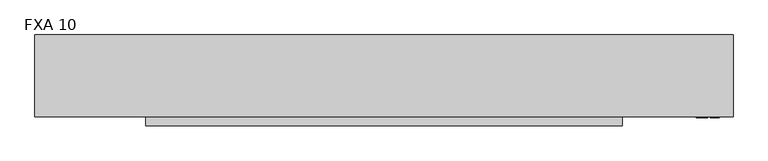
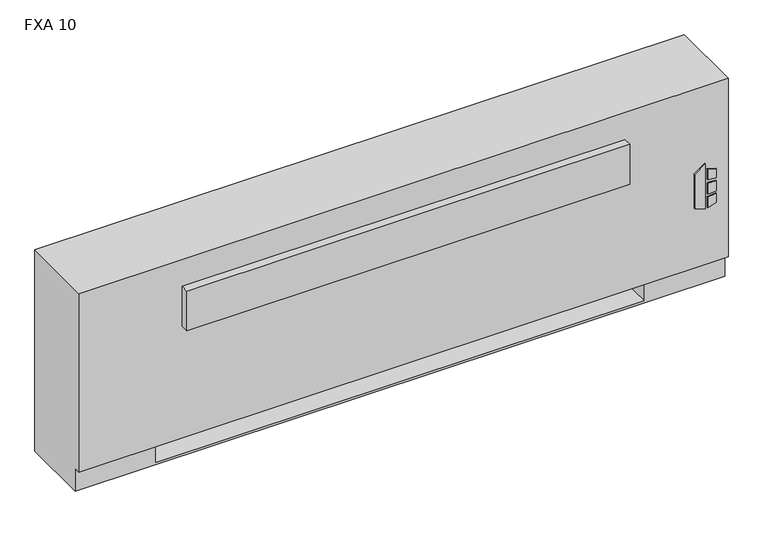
"""IFC4 building model written with IfcOpenShell, lengths in millimetres: proxy geometry, Vertical_Fan_Coil_Unit_-_FXA_-_IEC_-_4-Pipe_FS-FR_RH_2022 : FXA 10."""

from ifc_helpers import new_model, si_unit, point, frame, frame_2d, origin, place, context, project, spatial, polyline, circle_curve, trimmed, segment, composite_curve, outline, extrude, source, transform, mapped, element, save
from ifc_brep_helpers import plane_surface, revolved_surface, advanced_brep


def fxa_10_f746c035(model_context):
    return source(origin(), model_context, "Body", "SolidModel", [
        extrude(outline(polyline([(263.9480703, 1027.1868862), (254.0, 1059.3602728), (396.1709244, 1059.3602728), (373.1489183, 1027.1868862), (263.9480703, 1027.1868862)])), frame((0.0, 12.7, 0.0), z_axis=(0.0, 1.0, 0.0), x_axis=(0.0, 0.0, 1.0)), (0.0, 0.0, 1.0), 3.175),
        extrude(outline(polyline([(342.9473557, 1066.1186058), (339.7449632, 1092.2), (368.9738042, 1092.2), (377.0382193, 1066.1186058), (342.9473557, 1066.1186058)])), frame((0.0, 12.7, 0.0), z_axis=(0.0, 1.0, 0.0), x_axis=(0.0, 0.0, 1.0)), (0.0, 0.0, 1.0), 3.175),
        extrude(outline(polyline([(291.0838288, 1092.2), (287.4183279, 1066.1186058), (254.0, 1066.1186058), (262.6342372, 1092.2), (291.0838288, 1092.2)])), frame((0.0, 12.7, 0.0), z_axis=(0.0, 1.0, 0.0), x_axis=(0.0, 0.0, 1.0)), (0.0, 0.0, 1.0), 3.175),
        extrude(outline(polyline([(330.3989903, 1092.2), (332.6808166, 1066.1186058), (296.7432681, 1066.1186058), (299.4845331, 1092.2), (330.3989903, 1092.2)])), frame((0.0, 12.7, 0.0), z_axis=(0.0, 1.0, 0.0), x_axis=(0.0, 0.0, 1.0)), (0.0, 0.0, 1.0), 3.175),
        extrude(outline(polyline([(-704.85, 81.534), (-704.85, 223.266), (-584.2, 223.266), (-584.2, 81.534), (-704.85, 81.534)])), frame((0.0, 0.0, 327.025), z_axis=(0.0, 0.0, 1.0), x_axis=(1.0, 0.0, 0.0)), (0.0, 0.0, 1.0), 260.35),
        extrude(outline(composite_curve([segment(trimmed(circle_curve(frame_2d((952.5, 130.175)), 9.525), [point((942.975, 130.175))], [point((962.025, 130.175))], False, "CARTESIAN"), True, "CONTINUOUS"), segment(trimmed(circle_curve(frame_2d((952.5, 130.175)), 9.525), [point((962.025, 130.175))], [point((942.975, 130.175))], False, "CARTESIAN"), True, "CONTINUOUS")], self_intersect=False)), frame((0.0, 0.0, 101.6), z_axis=(0.0, 0.0, 1.0), x_axis=(1.0, 0.0, 0.0)), (0.0, 0.0, 1.0), 25.4),
        extrude(outline(polyline([(1054.1, 196.85), (1054.1, 63.5), (889.0, 63.5), (889.0, 196.85), (1054.1, 196.85)])), frame((0.0, 0.0, 127.0), z_axis=(0.0, 0.0, 1.0), x_axis=(1.0, 0.0, 0.0)), (0.0, 0.0, 1.0), 50.8),
        extrude(outline(polyline([(819.15, -9.525), (-514.35, -9.525), (-514.35, 15.875), (819.15, 15.875), (819.15, -9.525)])), frame((0.0, 0.0, 428.625), z_axis=(0.0, 0.0, 1.0), x_axis=(1.0, 0.0, 0.0)), (0.0, 0.0, 1.0), 127.0),
        extrude(outline(composite_curve([segment(trimmed(circle_curve(frame_2d((109.0168, 460.0194)), 7.9375), [point((109.0168, 467.9569))], [point((109.0168, 452.0819))], False, "CARTESIAN"), True, "CONTINUOUS"), segment(trimmed(circle_curve(frame_2d((109.0168, 460.0194)), 7.9375), [point((109.0168, 452.0819))], [point((109.0168, 467.9569))], False, "CARTESIAN"), True, "CONTINUOUS")], self_intersect=False)), frame((889.0, 0.0, 0.0), z_axis=(1.0, 0.0, 0.0), x_axis=(0.0, 1.0, 0.0)), (0.0, 0.0, 1.0), 50.8),
        extrude(outline(composite_curve([segment(trimmed(circle_curve(frame_2d((172.085, 460.0194)), 7.9375), [point((172.085, 467.9569))], [point((172.085, 452.0819))], False, "CARTESIAN"), True, "CONTINUOUS"), segment(trimmed(circle_curve(frame_2d((172.085, 460.0194)), 7.9375), [point((172.085, 452.0819))], [point((172.085, 467.9569))], False, "CARTESIAN"), True, "CONTINUOUS")], self_intersect=False)), frame((889.0, 0.0, 0.0), z_axis=(1.0, 0.0, 0.0), x_axis=(0.0, 1.0, 0.0)), (0.0, 0.0, 1.0), 50.8),
        extrude(outline(composite_curve([segment(trimmed(circle_curve(frame_2d((130.175, 554.99)), 7.9502), [point((130.175, 562.9402))], [point((130.175, 547.0398))], False, "CARTESIAN"), True, "CONTINUOUS"), segment(trimmed(circle_curve(frame_2d((130.175, 554.99)), 7.9502), [point((130.175, 547.0398))], [point((130.175, 562.9402))], False, "CARTESIAN"), True, "CONTINUOUS")], self_intersect=False)), frame((889.0, 0.0, 0.0), z_axis=(1.0, 0.0, 0.0), x_axis=(0.0, 1.0, 0.0)), (0.0, 0.0, 1.0), 50.8),
        extrude(outline(composite_curve([segment(trimmed(circle_curve(frame_2d((53.975, 416.56)), 7.9502), [point((53.975, 424.5102))], [point((53.975, 408.6098))], False, "CARTESIAN"), True, "CONTINUOUS"), segment(trimmed(circle_curve(frame_2d((53.975, 416.56)), 7.9502), [point((53.975, 408.6098))], [point((53.975, 424.5102))], False, "CARTESIAN"), True, "CONTINUOUS")], self_intersect=False)), frame((889.0, 0.0, 0.0), z_axis=(1.0, 0.0, 0.0), x_axis=(0.0, 1.0, 0.0)), (0.0, 0.0, 1.0), 50.8),
        advanced_brep(
        [(1130.3, 244.475, 641.35), (-825.5, 244.475, 641.35), (-825.5, 15.875, 641.35), (1130.3, 15.875, 641.35), (-825.5, 244.475, 0.0), (1130.3, 244.475, 0.0), (1130.3, 34.925, 0.0), (-825.5, 34.925, 0.0), (889.0, 244.475, 73.025), (1117.6, 244.475, 73.025), (1117.6, 244.475, 628.65), (889.0, 244.475, 628.65), (889.0, 244.475, 414.8650565), (917.575, 244.475, 414.8650565), (917.575, 244.475, 385.2349435), (889.0, 244.475, 385.2349435), (889.0, 244.475, 287.3375), (917.575, 244.475, 287.3375), (917.575, 244.475, 258.7625), (889.0, 244.475, 258.7625), (889.0, 244.475, 141.2875), (917.575, 244.475, 141.2875), (917.575, 244.475, 112.7125), (889.0, 244.475, 112.7125), (-584.2, 244.475, 628.65), (-812.8, 244.475, 628.65), (-812.8, 244.475, 73.025), (-584.2, 244.475, 73.025), (-584.2, 244.475, 112.7125), (-612.775, 244.475, 112.7125), (-612.775, 244.475, 141.2875), (-584.2, 244.475, 141.2875), (-584.2, 244.475, 258.7625), (-612.775, 244.475, 258.7625), (-612.775, 244.475, 287.3375), (-584.2, 244.475, 287.3375), (-584.2, 244.475, 385.2349435), (-612.775, 244.475, 385.2349435), (-612.775, 244.475, 414.8650565), (-584.2, 244.475, 414.8650565), (907.2626, 244.475, 127.0), (896.1374, 244.475, 127.0), (907.2626, 244.475, 400.05), (896.1374, 244.475, 400.05), (907.2626, 244.475, 273.05), (896.1374, 244.475, 273.05), (-591.3374, 244.475, 127.0), (-602.4626, 244.475, 127.0), (-591.3374, 244.475, 273.05), (-602.4626, 244.475, 273.05), (-591.3374, 244.475, 400.05), (-602.4626, 244.475, 400.05), (-825.5, 34.925, 73.025), (-825.5, 15.875, 73.025), (1130.3, 15.875, 73.025), (1130.3, 34.925, 73.025), (-584.2, 34.925, 73.025), (-584.2, 219.075, 73.025), (889.0, 219.075, 73.025), (889.0, 34.925, 73.025), (889.0, 34.925, 6.35), (-584.2, 34.925, 6.35), (889.0, 41.275, 628.65), (1117.6, 41.275, 628.65), (1117.6, 41.275, 73.025), (889.0, 41.275, 73.025), (-584.2, 41.275, 628.65), (-584.2, 41.275, 73.025), (-812.8, 41.275, 73.025), (-812.8, 41.275, 628.65), (889.0, 219.075, 73.025), (889.0, 238.125, 112.7125), (889.0, 238.125, 141.2875), (889.0, 238.125, 258.7625), (889.0, 238.125, 287.3375), (889.0, 238.125, 385.2349435), (889.0, 238.125, 414.8650565), (-584.2, 219.075, 73.025), (-584.2, 238.125, 414.8650565), (-584.2, 238.125, 385.2349435), (-584.2, 238.125, 287.3375), (-584.2, 238.125, 258.7625), (-584.2, 238.125, 141.2875), (-584.2, 238.125, 112.7125), (-584.2, 219.075, 6.35), (889.0, 219.075, 6.35), (917.575, 238.125, 112.7125), (917.575, 238.125, 141.2875), (896.1374, 238.125, 127.0), (907.2626, 238.125, 127.0), (917.575, 238.125, 258.7625), (917.575, 238.125, 287.3375), (896.1374, 238.125, 273.05), (907.2626, 238.125, 273.05), (917.575, 238.125, 385.2349435), (917.575, 238.125, 414.8650565), (896.1374, 238.125, 400.05), (907.2626, 238.125, 400.05), (-612.775, 238.125, 141.2875), (-612.775, 238.125, 112.7125), (-602.4626, 238.125, 127.0), (-591.3374, 238.125, 127.0), (-612.775, 238.125, 287.3375), (-612.775, 238.125, 258.7625), (-602.4626, 238.125, 273.05), (-591.3374, 238.125, 273.05), (-612.775, 238.125, 414.8650565), (-612.775, 238.125, 385.2349435), (-602.4626, 238.125, 400.05), (-591.3374, 238.125, 400.05)],
        [
            (0, 1),
            (1, 2),
            (2, 3),
            (3, 0),
            (4, 5),
            (5, 6),
            (6, 7),
            (7, 4),
            (0, 5),
            (4, 1),
            (8, 9),
            (9, 10),
            (10, 11),
            (11, 12),
            (12, 13),
            (13, 14),
            (14, 15),
            (15, 16),
            (16, 17),
            (17, 18),
            (18, 19),
            (19, 20),
            (20, 21),
            (21, 22),
            (22, 23),
            (23, 8),
            (24, 25),
            (25, 26),
            (26, 27),
            (27, 28),
            (28, 29),
            (29, 30),
            (30, 31),
            (31, 32),
            (32, 33),
            (33, 34),
            (34, 35),
            (35, 36),
            (36, 37),
            (37, 38),
            (38, 39),
            (39, 24),
            (40, 41, circle_curve(frame((901.7, 244.475, 127.0), z_axis=(0.0, -1.0, 0.0), x_axis=(-1.0, 0.0, 0.0)), 5.5626)),
            (41, 40, circle_curve(frame((901.7, 244.475, 127.0), z_axis=(0.0, -1.0, 0.0), x_axis=(-1.0, 0.0, 0.0)), 5.5626)),
            (42, 43, circle_curve(frame((901.7, 244.475, 400.05), z_axis=(0.0, -1.0, 0.0), x_axis=(-1.0, 0.0, 0.0)), 5.5626)),
            (43, 42, circle_curve(frame((901.7, 244.475, 400.05), z_axis=(0.0, -1.0, 0.0), x_axis=(-1.0, 0.0, 0.0)), 5.5626)),
            (44, 45, circle_curve(frame((901.7, 244.475, 273.05), z_axis=(0.0, -1.0, 0.0), x_axis=(-1.0, 0.0, 0.0)), 5.5626)),
            (45, 44, circle_curve(frame((901.7, 244.475, 273.05), z_axis=(0.0, -1.0, 0.0), x_axis=(-1.0, 0.0, 0.0)), 5.5626)),
            (46, 47, circle_curve(frame((-596.9, 244.475, 127.0), z_axis=(0.0, -1.0, 0.0), x_axis=(-1.0, 0.0, 0.0)), 5.5626)),
            (47, 46, circle_curve(frame((-596.9, 244.475, 127.0), z_axis=(0.0, -1.0, 0.0), x_axis=(-1.0, 0.0, 0.0)), 5.5626)),
            (48, 49, circle_curve(frame((-596.9, 244.475, 273.05), z_axis=(0.0, -1.0, 0.0), x_axis=(-1.0, 0.0, 0.0)), 5.5626)),
            (49, 48, circle_curve(frame((-596.9, 244.475, 273.05), z_axis=(0.0, -1.0, 0.0), x_axis=(-1.0, 0.0, 0.0)), 5.5626)),
            (50, 51, circle_curve(frame((-596.9, 244.475, 400.05), z_axis=(0.0, -1.0, 0.0), x_axis=(-1.0, 0.0, 0.0)), 5.5626)),
            (51, 50, circle_curve(frame((-596.9, 244.475, 400.05), z_axis=(0.0, -1.0, 0.0), x_axis=(-1.0, 0.0, 0.0)), 5.5626)),
            (7, 52),
            (52, 53),
            (53, 2),
            (53, 54),
            (54, 3),
            (54, 55),
            (55, 6),
            (52, 56),
            (56, 57),
            (57, 58),
            (58, 59),
            (59, 55),
            (59, 60),
            (60, 61),
            (61, 56),
            (62, 63),
            (63, 64),
            (64, 65),
            (65, 62),
            (66, 67),
            (67, 68),
            (68, 69),
            (69, 66),
            (65, 70),
            (70, 8),
            (23, 71),
            (71, 72),
            (72, 20),
            (19, 73),
            (73, 74),
            (74, 16),
            (15, 75),
            (75, 76),
            (76, 12),
            (11, 62),
            (64, 9),
            (63, 10),
            (69, 25),
            (24, 66),
            (68, 26),
            (67, 77),
            (77, 27),
            (39, 78),
            (78, 79),
            (79, 36),
            (35, 80),
            (80, 81),
            (81, 32),
            (31, 82),
            (82, 83),
            (83, 28),
            (57, 84),
            (84, 85),
            (85, 58),
            (85, 60),
            (84, 61),
            (71, 86),
            (86, 87),
            (87, 72),
            (88, 89, circle_curve(frame((901.7, 238.125, 127.0), z_axis=(0.0, 1.0, 0.0), x_axis=(-1.0, 0.0, 0.0)), 5.5626)),
            (89, 88, circle_curve(frame((901.7, 238.125, 127.0), z_axis=(0.0, 1.0, 0.0), x_axis=(-1.0, 0.0, 0.0)), 5.5626)),
            (73, 90),
            (90, 91),
            (91, 74),
            (92, 93, circle_curve(frame((901.7, 238.125, 273.05), z_axis=(0.0, 1.0, 0.0), x_axis=(-1.0, 0.0, 0.0)), 5.5626)),
            (93, 92, circle_curve(frame((901.7, 238.125, 273.05), z_axis=(0.0, 1.0, 0.0), x_axis=(-1.0, 0.0, 0.0)), 5.5626)),
            (75, 94),
            (94, 95),
            (95, 76),
            (96, 97, circle_curve(frame((901.7, 238.125, 400.05), z_axis=(0.0, 1.0, 0.0), x_axis=(-1.0, 0.0, 0.0)), 5.5626)),
            (97, 96, circle_curve(frame((901.7, 238.125, 400.05), z_axis=(0.0, 1.0, 0.0), x_axis=(-1.0, 0.0, 0.0)), 5.5626)),
            (98, 99),
            (99, 83),
            (82, 98),
            (100, 101, circle_curve(frame((-596.9, 238.125, 127.0), z_axis=(0.0, 1.0, 0.0), x_axis=(-1.0, 0.0, 0.0)), 5.5626)),
            (101, 100, circle_curve(frame((-596.9, 238.125, 127.0), z_axis=(0.0, 1.0, 0.0), x_axis=(-1.0, 0.0, 0.0)), 5.5626)),
            (102, 103),
            (103, 81),
            (80, 102),
            (104, 105, circle_curve(frame((-596.9, 238.125, 273.05), z_axis=(0.0, 1.0, 0.0), x_axis=(-1.0, 0.0, 0.0)), 5.5626)),
            (105, 104, circle_curve(frame((-596.9, 238.125, 273.05), z_axis=(0.0, 1.0, 0.0), x_axis=(-1.0, 0.0, 0.0)), 5.5626)),
            (106, 107),
            (107, 79),
            (78, 106),
            (108, 109, circle_curve(frame((-596.9, 238.125, 400.05), z_axis=(0.0, 1.0, 0.0), x_axis=(-1.0, 0.0, 0.0)), 5.5626)),
            (109, 108, circle_curve(frame((-596.9, 238.125, 400.05), z_axis=(0.0, 1.0, 0.0), x_axis=(-1.0, 0.0, 0.0)), 5.5626)),
            (87, 21),
            (86, 22),
            (91, 17),
            (90, 18),
            (95, 13),
            (94, 14),
            (30, 98),
            (99, 29),
            (34, 102),
            (103, 33),
            (38, 106),
            (107, 37),
            (88, 41),
            (40, 89),
            (96, 43),
            (42, 97),
            (92, 45),
            (44, 93),
            (100, 47),
            (46, 101),
            (104, 49),
            (48, 105),
            (108, 51),
            (50, 109),
        ],
        [
            plane_surface(frame((-825.5, 244.475, 641.35), z_axis=(0.0, 0.0, 1.0), x_axis=(-1.0, 0.0, 0.0))),
            plane_surface(frame((-825.5, 244.475, 0.0), z_axis=(0.0, 0.0, -1.0), x_axis=(1.0, 0.0, 0.0))),
            plane_surface(frame((1130.3, 244.475, 641.35), z_axis=(0.0, 1.0, 0.0), x_axis=(0.0, 0.0, -1.0))),
            plane_surface(frame((-825.5, 244.475, 641.35), z_axis=(-1.0, 0.0, 0.0), x_axis=(0.0, 0.0, -1.0))),
            plane_surface(frame((-825.5, 15.875, 641.35), z_axis=(0.0, -1.0, 0.0), x_axis=(0.0, 0.0, -1.0))),
            plane_surface(frame((1130.3, 15.875, 641.35), z_axis=(1.0, 0.0, 0.0), x_axis=(0.0, 0.0, -1.0))),
            plane_surface(frame((-825.5, 15.875, 73.025), z_axis=(0.0, 0.0, -1.0), x_axis=(1.0, 0.0, 0.0))),
            plane_surface(frame((-825.5, 34.925, 73.025), z_axis=(0.0, -1.0, 0.0), x_axis=(1.0, 0.0, 0.0))),
            plane_surface(frame((889.0, 41.275, 628.65), z_axis=(0.0, 1.0, 0.0), x_axis=(0.0, 0.0, -1.0))),
            plane_surface(frame((889.0, 41.275, 628.65), z_axis=(1.0, 0.0, 0.0), x_axis=(0.0, 1.0, 0.0))),
            plane_surface(frame((889.0, 41.275, 73.025), z_axis=(0.0, 0.0, 1.0), x_axis=(0.0, 1.0, 0.0))),
            plane_surface(frame((1117.6, 41.275, 73.025), z_axis=(-1.0, 0.0, 0.0), x_axis=(0.0, 1.0, 0.0))),
            plane_surface(frame((1117.6, 41.275, 628.65), z_axis=(0.0, 0.0, -1.0), x_axis=(0.0, 1.0, 0.0))),
            plane_surface(frame((-584.2, 41.275, 628.65), z_axis=(0.0, 0.0, -1.0), x_axis=(0.0, 1.0, 0.0))),
            plane_surface(frame((-812.8, 41.275, 628.65), z_axis=(1.0, 0.0, 0.0), x_axis=(0.0, 1.0, 0.0))),
            plane_surface(frame((-812.8, 41.275, 73.025), z_axis=(0.0, 0.0, 1.0), x_axis=(0.0, 1.0, 0.0))),
            plane_surface(frame((-584.2, 41.275, 73.025), z_axis=(-1.0, 0.0, 0.0), x_axis=(0.0, 1.0, 0.0))),
            plane_surface(frame((889.0, 219.075, 73.025), z_axis=(0.0, -1.0, 0.0), x_axis=(0.0, 0.0, -1.0))),
            plane_surface(frame((889.0, 219.075, 73.025), z_axis=(-1.0, 0.0, 0.0), x_axis=(0.0, -1.0, 0.0))),
            plane_surface(frame((889.0, 219.075, 6.35), z_axis=(0.0, 0.0, 1.0), x_axis=(0.0, -1.0, 0.0))),
            plane_surface(frame((-584.2, 219.075, 6.35), z_axis=(1.0, 0.0, 0.0), x_axis=(0.0, -1.0, 0.0))),
            plane_surface(frame((917.575, 238.125, 141.2875), z_axis=(0.0, -1.0, 0.0), x_axis=(-1.0, 0.0, 0.0))),
            plane_surface(frame((889.0, 244.475, 141.2875), z_axis=(0.0, 0.0, 1.0), x_axis=(0.0, -1.0, 0.0))),
            plane_surface(frame((917.575, 244.475, 141.2875), z_axis=(1.0, 0.0, 0.0), x_axis=(0.0, -1.0, 0.0))),
            plane_surface(frame((917.575, 244.475, 112.7125), z_axis=(0.0, 0.0, -1.0), x_axis=(0.0, -1.0, 0.0))),
            plane_surface(frame((889.0, 244.475, 287.3375), z_axis=(0.0, 0.0, 1.0), x_axis=(0.0, -1.0, 0.0))),
            plane_surface(frame((917.575, 244.475, 287.3375), z_axis=(1.0, 0.0, 0.0), x_axis=(0.0, -1.0, 0.0))),
            plane_surface(frame((917.575, 244.475, 258.7625), z_axis=(0.0, 0.0, -1.0), x_axis=(0.0, -1.0, 0.0))),
            plane_surface(frame((889.0, 244.475, 414.8650565), z_axis=(0.0, 0.0, 1.0), x_axis=(0.0, -1.0, 0.0))),
            plane_surface(frame((917.575, 244.475, 414.8650565), z_axis=(1.0, 0.0, 0.0), x_axis=(0.0, -1.0, 0.0))),
            plane_surface(frame((917.575, 244.475, 385.2349435), z_axis=(0.0, 0.0, -1.0), x_axis=(0.0, -1.0, 0.0))),
            plane_surface(frame((-612.775, 244.475, 141.2875), z_axis=(0.0, 0.0, 1.0), x_axis=(0.0, -1.0, 0.0))),
            plane_surface(frame((-584.2, 244.475, 112.7125), z_axis=(0.0, 0.0, -1.0), x_axis=(0.0, -1.0, 0.0))),
            plane_surface(frame((-612.775, 244.475, 112.7125), z_axis=(-1.0, 0.0, 0.0), x_axis=(0.0, -1.0, 0.0))),
            plane_surface(frame((-612.775, 244.475, 287.3375), z_axis=(0.0, 0.0, 1.0), x_axis=(0.0, -1.0, 0.0))),
            plane_surface(frame((-584.2, 244.475, 258.7625), z_axis=(0.0, 0.0, -1.0), x_axis=(0.0, -1.0, 0.0))),
            plane_surface(frame((-612.775, 244.475, 258.7625), z_axis=(-1.0, 0.0, 0.0), x_axis=(0.0, -1.0, 0.0))),
            plane_surface(frame((-612.775, 244.475, 414.8650565), z_axis=(0.0, 0.0, 1.0), x_axis=(0.0, -1.0, 0.0))),
            plane_surface(frame((-584.2, 244.475, 385.2349435), z_axis=(0.0, 0.0, -1.0), x_axis=(0.0, -1.0, 0.0))),
            plane_surface(frame((-612.775, 244.475, 385.2349435), z_axis=(-1.0, 0.0, 0.0), x_axis=(0.0, -1.0, 0.0))),
            revolved_surface(polyline([(896.1374000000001, 238.125, 127.0), (896.1374000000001, 244.475, 127.0)]), (901.7, 244.475, 127.0), (0.0, -1.0, 0.0)),
            revolved_surface(polyline([(896.1374000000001, 238.125, 400.05), (896.1374000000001, 244.475, 400.05)]), (901.7, 244.475, 400.05), (0.0, -1.0, 0.0)),
            revolved_surface(polyline([(896.1374000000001, 238.125, 273.05), (896.1374000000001, 244.475, 273.05)]), (901.7, 244.475, 273.05), (0.0, -1.0, 0.0)),
            revolved_surface(polyline([(-602.4626, 238.125, 127.0), (-602.4626, 244.475, 127.0)]), (-596.9, 244.475, 127.0), (0.0, -1.0, 0.0)),
            revolved_surface(polyline([(-602.4626, 238.125, 273.05), (-602.4626, 244.475, 273.05)]), (-596.9, 244.475, 273.05), (0.0, -1.0, 0.0)),
            revolved_surface(polyline([(-602.4626, 238.125, 400.05), (-602.4626, 244.475, 400.05)]), (-596.9, 244.475, 400.05), (0.0, -1.0, 0.0)),
        ],
        [
            (0, [[1, 2, 3, 4]]),
            (1, [[5, 6, 7, 8]]),
            (2, [[-1, 9, -5, 10], [11, 12, 13, 14, 15, 16, 17, 18, 19, 20, 21, 22, 23, 24, 25, 26], [27, 28, 29, 30, 31, 32, 33, 34, 35, 36, 37, 38, 39, 40, 41, 42], [43, 44], [45, 46], [47, 48], [49, 50], [51, 52], [53, 54]]),
            (3, [[-2, -10, -8, 55, 56, 57]]),
            (4, [[-3, -57, 58, 59]]),
            (5, [[-4, -59, 60, 61, -6, -9]]),
            (6, [[-56, 62, 63, 64, 65, 66, -60, -58]]),
            (7, [[-7, -61, -66, 67, 68, 69, -62, -55]]),
            (8, [[70, 71, 72, 73]]),
            (8, [[74, 75, 76, 77]]),
            (9, [[-73, 78, 79, -26, 80, 81, 82, -22, 83, 84, 85, -18, 86, 87, 88, -14, 89]]),
            (10, [[-72, 90, -11, -79, -78]]),
            (11, [[-71, 91, -12, -90]]),
            (12, [[-70, -89, -13, -91]]),
            (13, [[-77, 92, -27, 93]]),
            (14, [[-76, 94, -28, -92]]),
            (15, [[-75, 95, 96, -29, -94]]),
            (16, [[-74, -93, -42, 97, 98, 99, -38, 100, 101, 102, -34, 103, 104, 105, -30, -96, -95]]),
            (17, [[-64, 106, 107, 108]]),
            (18, [[-108, 109, -67, -65]]),
            (19, [[-107, 110, -68, -109]]),
            (20, [[-106, -63, -69, -110]]),
            (21, [[111, 112, 113, -81], [114, 115]]),
            (21, [[116, 117, 118, -84], [119, 120]]),
            (21, [[121, 122, 123, -87], [124, 125]]),
            (21, [[126, 127, -104, 128], [129, 130]]),
            (21, [[131, 132, -101, 133], [134, 135]]),
            (21, [[136, 137, -98, 138], [139, 140]]),
            (22, [[-113, 141, -23, -82]]),
            (23, [[-112, 142, -24, -141]]),
            (24, [[-111, -80, -25, -142]]),
            (25, [[-118, 143, -19, -85]]),
            (26, [[-117, 144, -20, -143]]),
            (27, [[-116, -83, -21, -144]]),
            (28, [[-123, 145, -15, -88]]),
            (29, [[-122, 146, -16, -145]]),
            (30, [[-121, -86, -17, -146]]),
            (31, [[-128, -103, -33, 147]]),
            (32, [[-127, 148, -31, -105]]),
            (33, [[-126, -147, -32, -148]]),
            (34, [[-133, -100, -37, 149]]),
            (35, [[-132, 150, -35, -102]]),
            (36, [[-131, -149, -36, -150]]),
            (37, [[-138, -97, -41, 151]]),
            (38, [[-137, 152, -39, -99]]),
            (39, [[-136, -151, -40, -152]]),
            (40, [[153, -43, 154, -114]]),
            (40, [[-153, -115, -154, -44]]),
            (41, [[155, -45, 156, -124]]),
            (41, [[-155, -125, -156, -46]]),
            (42, [[157, -47, 158, -119]]),
            (42, [[-157, -120, -158, -48]]),
            (43, [[159, -49, 160, -129]]),
            (43, [[-159, -130, -160, -50]]),
            (44, [[161, -51, 162, -134]]),
            (44, [[-161, -135, -162, -52]]),
            (45, [[163, -53, 164, -139]]),
            (45, [[-163, -140, -164, -54]]),
        ],
    ),
    ])


if __name__ == "__main__":
    model = new_model("IFC4")
    model_context = context("Model", 3, world=origin())
    ifc_project = project(units=[si_unit("LENGTHUNIT", "METRE", prefix="MILLI")], contexts=[model_context])
    site = spatial("IfcSite", under=ifc_project)
    building = spatial("IfcBuilding", under=site)
    placement = place(None, origin())
    fxa_10_shape = fxa_10_f746c035(model_context)
    element("IfcBuildingElementProxy", 1, Name="Vertical_Fan_Coil_Unit_-_FXA_-_IEC_-_4-Pipe_FS-FR_RH_2022 : FXA 10", ObjectType="Vertical_Fan_Coil_Unit_-_FXA_-_IEC_-_4-Pipe_FS-FR_RH_2022 : FXA 10", at=placement, inside=building, context=model_context, shape_type="MappedRepresentation", body=[
        mapped(fxa_10_shape, transform((0.0, 0.0, 0.0), x_axis=(1.0, 0.0, 0.0), y_axis=(0.0, 1.0, 0.0), z_axis=(0.0, 0.0, 1.0))),
    ])
    save(model, "model.ifc")
